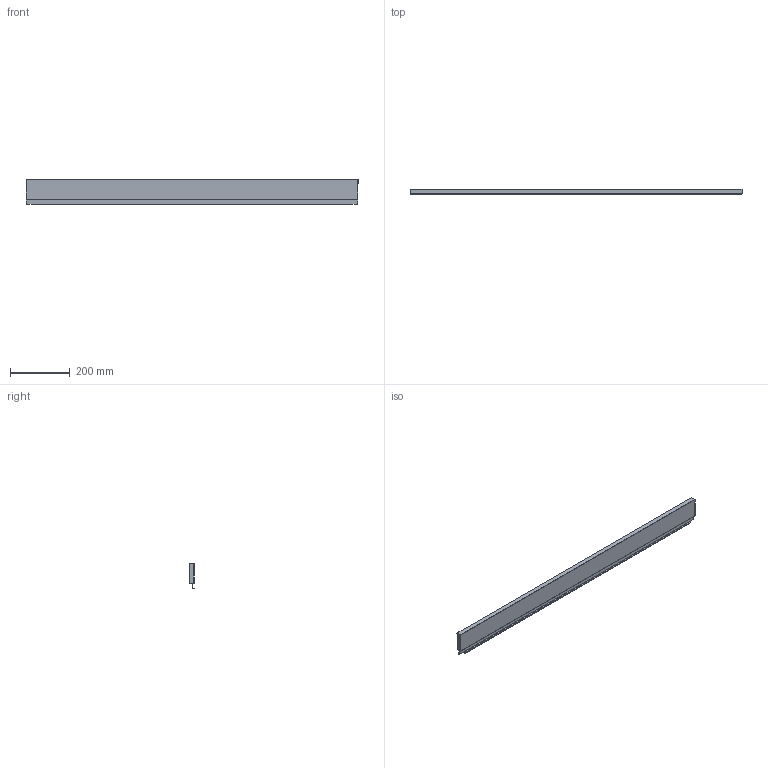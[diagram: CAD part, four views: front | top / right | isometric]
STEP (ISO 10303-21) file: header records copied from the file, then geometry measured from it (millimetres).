
FILE_DESCRIPTION (( 'STEP AP214' ), '1' );
FILE_NAME ('_STRW_H90_KAB_1200.step', '2010-08-24T14:40:20', ( 'grass' ), ( '' ), 'SwSTEP 2.0', 'SolidWorks 2009', '' );
FILE_SCHEMA (( 'AUTOMOTIVE_DESIGN' ));
Length unit declared in the file: millimetre
Products named in the file (1): _STRW_H90_KAB_1200
Bounding box: 1110 x 17 x 85.14 mm (x, y, z)
Volume: 101217.2 mm3; surface area: 255076.8 mm2
Topology: 1 solids, 1 shells, 76 faces, 214 edges, 140 vertices
Faces by surface type: plane 54, cylinder 22
Entity records: 2472 total; most frequent: CARTESIAN_POINT 431, ORIENTED_EDGE 428, DIRECTION 412, EDGE_CURVE 214, LINE 170, VECTOR 170, VERTEX_POINT 140, AXIS2_PLACEMENT_3D 121
